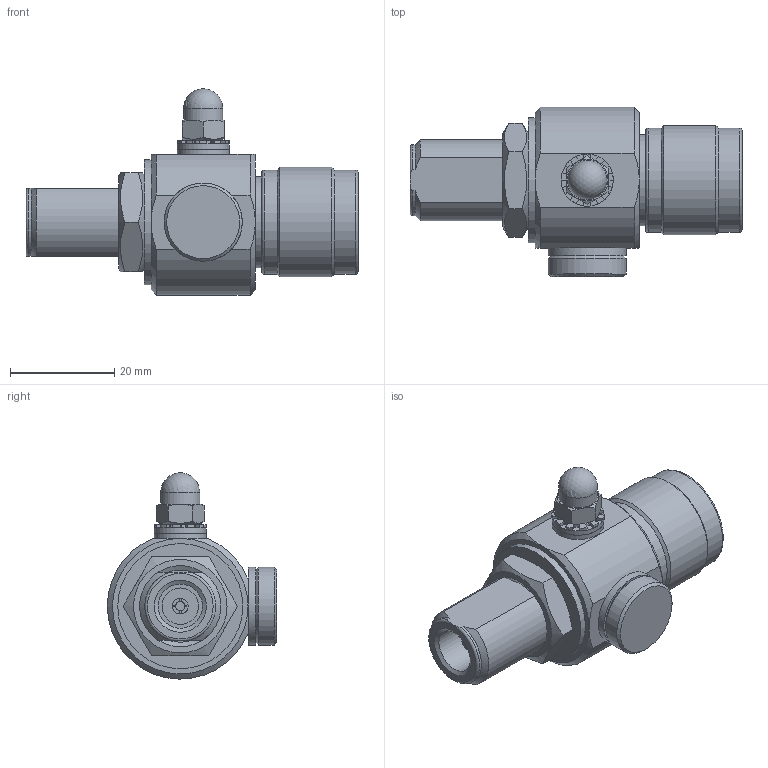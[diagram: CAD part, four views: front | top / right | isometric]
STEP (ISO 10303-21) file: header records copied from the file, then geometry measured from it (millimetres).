
FILE_DESCRIPTION(/* description */ (''),/* implementation_level */ '2;1');
FILE_NAME(/* name */ 'K:\PROJEKTY ROZPRACOVANÉ\MODELY DO KATALOGU\KO\3D - STEP\KO-GN (F_M).stp',/* time_stamp */ '2020-12-03T08:47:10+01:00',/* author */ ('M Koliska'),/* organization */ (''),/* preprocessor_version */ 'ST-DEVELOPER v18.1',/* originating_system */ 'Autodesk Inventor 2021',/* authorisation */ '');
FILE_SCHEMA (('AUTOMOTIVE_DESIGN { 1 0 10303 214 3 1 1 }'));
Length unit declared in the file: millimetre
Products named in the file (7): KO-3GN F/M; KO-3GN F-M; DIN 125 - A 5,3; DIN 6798 - A  5,3; DIN 1587 - M5; MATICE KO; PODLOŽKA
Assembly tree (7 placements, depth 2):
  KO-3GN F/M
    KO-3GN F-M
    DIN 125 - A 5,3  x2
    DIN 6798 - A  5,3
    DIN 1587 - M5
    MATICE KO
    PODLOŽKA
Bounding box: 63.7 x 32.5 x 39.57 mm (x, y, z)
Volume: 22550.7 mm3; surface area: 9536.6 mm2
Topology: 7 solids, 7 shells, 208 faces, 510 edges, 329 vertices
Faces by surface type: plane 94, cylinder 82, cone 27, torus 4, sphere 1
Full cylindrical faces by diameter (mm): 1.8 x1, 3 x2, 4.134 x1, 5 x1, 5.3 x3, 7 x1, 7.5 x1, 8.5 x1, 10 x2, 13.835 x1, 15 x3, 16.3 x1, 17.5 x1, 18 x1, 20 x2, 21 x1, 24 x1
Entity records: 6363 total; most frequent: CARTESIAN_POINT 1175, DIRECTION 1101, ORIENTED_EDGE 996, EDGE_CURVE 498, AXIS2_PLACEMENT_3D 430, VERTEX_POINT 323, LINE 241, VECTOR 241
